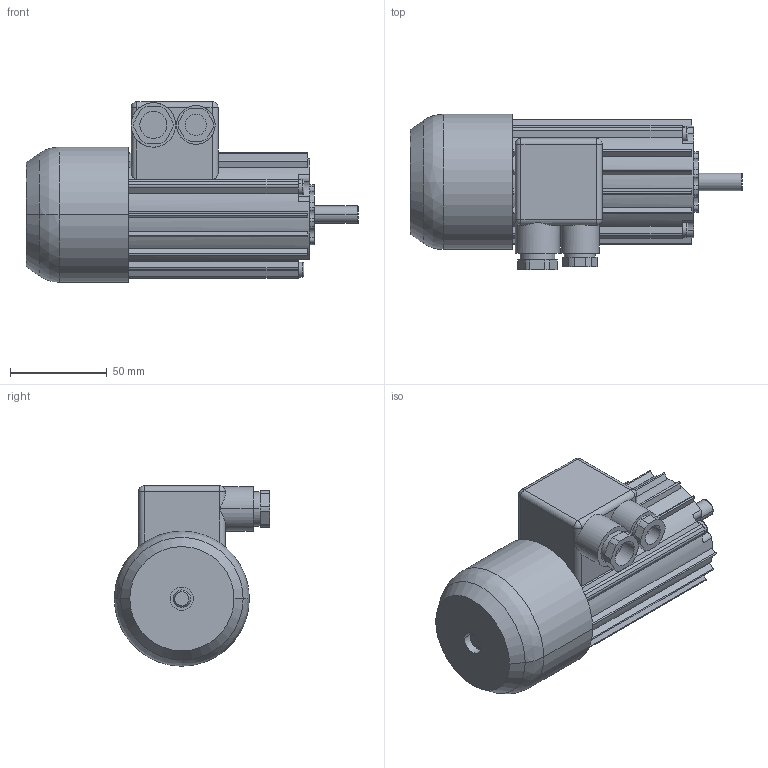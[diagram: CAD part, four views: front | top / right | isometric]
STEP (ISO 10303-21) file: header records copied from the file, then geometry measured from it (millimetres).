
FILE_DESCRIPTION((''),'2;1');
FILE_NAME('KDDR52_0X60_AS9X25_FL32','2005-11-15T',('thomas.amann'),(''),'PRO/ENGINEER BY PARAMETRIC TECHNOLOGY CORPORATION, 2003490','PRO/ENGINEER BY PARAMETRIC TECHNOLOGY CORPORATION, 2003490','');
FILE_SCHEMA(('AUTOMOTIVE_DESIGN_CC2 { 1 2 10303 214 -1 1 5 2 }'));
Length unit declared in the file: millimetre
Products named in the file (1): KDDR52_0X60_AS9X25_FL32
Bounding box: 172 x 80.5 x 93.5 mm (x, y, z)
Volume: 532496.8 mm3; surface area: 54221.3 mm2
Topology: 1 solids, 9 shells, 338 faces, 877 edges, 576 vertices
Faces by surface type: cylinder 196, plane 122, cone 8, torus 6, sphere 4, bspline 2
Entity records: 10837 total; most frequent: DIRECTION 2011, CARTESIAN_POINT 1923, ORIENTED_EDGE 1722, EDGE_CURVE 877, AXIS2_PLACEMENT_3D 807, VERTEX_POINT 576, CIRCLE 470, VECTOR 397
